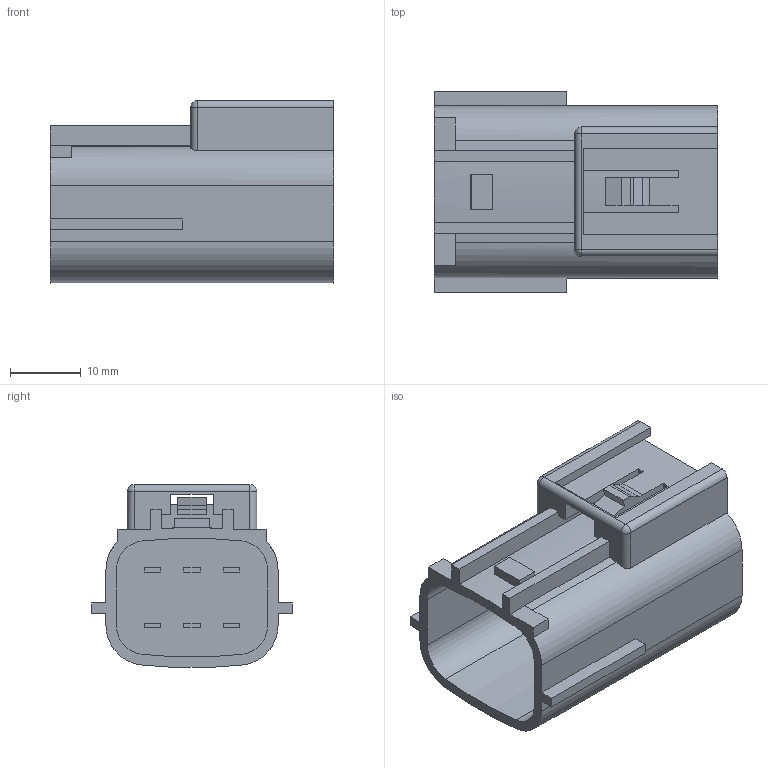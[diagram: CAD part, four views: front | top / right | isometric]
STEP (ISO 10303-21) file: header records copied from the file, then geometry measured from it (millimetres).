
FILE_DESCRIPTION(('CATIA V5 STEP Exchange'),'2;1');
FILE_NAME('N:\C-DAM_MyDesk\ENV\900093\6181-0511.stp','2013-10-01T01:12:38+00:00',('none'),('none'),'CATIA Version 5 Release 20 SP 4 (IN-10)','CATIA V5 STEP AP203','none');
FILE_SCHEMA(('CONFIG_CONTROL_DESIGN'));
Length unit declared in the file: millimetre
Products named in the file (1): 6181-0511
Bounding box: 40.2 x 28.4 x 25.95 mm (x, y, z)
Volume: 13723.5 mm3; surface area: 6723.4 mm2
Topology: 1 solids, 1 shells, 130 faces, 344 edges, 226 vertices
Faces by surface type: plane 95, cylinder 32, sphere 2, bspline 1
Entity records: 3831 total; most frequent: CARTESIAN_POINT 697, ORIENTED_EDGE 684, DIRECTION 536, EDGE_CURVE 342, VECTOR 270, LINE 270, VERTEX_POINT 226, AXIS2_PLACEMENT_3D 168
